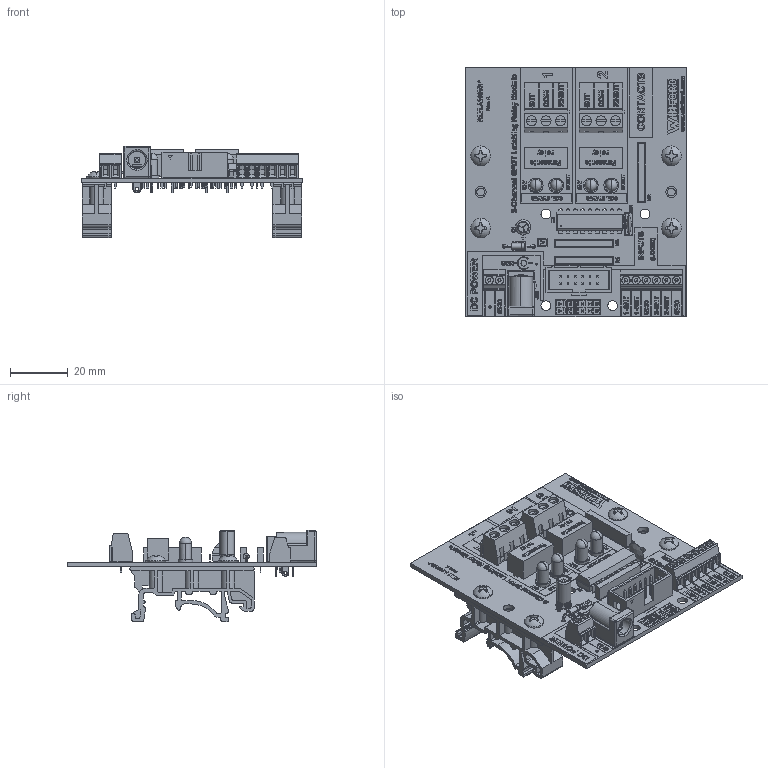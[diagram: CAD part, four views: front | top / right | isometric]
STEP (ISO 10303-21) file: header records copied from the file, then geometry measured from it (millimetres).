
FILE_DESCRIPTION (( 'STEP AP214' ), '1' );
FILE_NAME ('rlyla102v2-xxv-din_rev_a.step', '2026-09-04T18:41:49', ( '' ), ( '' ), 'SwSTEP 2.0', 'SolidWorks 2018', '' );
FILE_SCHEMA (( 'AUTOMOTIVE_DESIGN' ));
Length unit declared in the file: inch
Products named in the file (4): rlyla102v2_main_board; Screw_SCSMPP-6-0.375_screw, #6; dinm01; rlyla102v2-xxv-din_rev_a
Assembly tree (7 placements, depth 2):
  rlyla102v2-xxv-din_rev_a
    rlyla102v2_main_board
    dinm01  x2
    Screw_SCSMPP-6-0.375_screw, #6  x4
Bounding box: 76.2 x 86.36 x 31.57 mm (x, y, z)
Volume: 24561.1 mm3; surface area: 32082.5 mm2
Topology: 23 solids, 23 shells, 6943 faces, 18665 edges, 12303 vertices
Faces by surface type: plane 4409, bspline 1580, cylinder 829, torus 60, cone 36, sphere 29
Entity records: 319996 total; most frequent: CARTESIAN_POINT 124766, ORIENTED_EDGE 34776, DIRECTION 24257, EDGE_CURVE 17388, LINE 11827, VECTOR 11827, VERTEX_POINT 11466, EDGE_LOOP 7236
